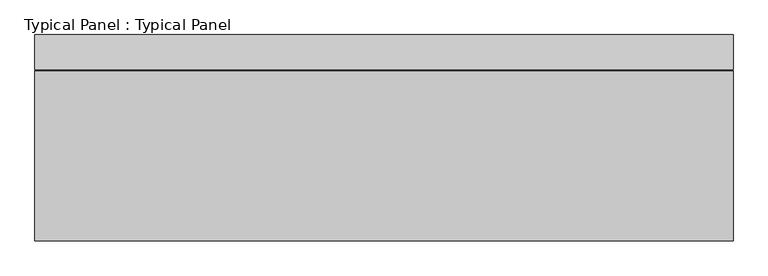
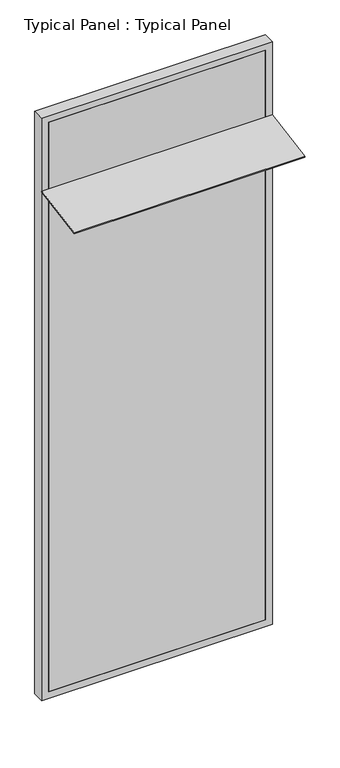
"""IFC4 building model written with IfcOpenShell, lengths in millimetres: plate geometry, Typical Panel : Typical Panel."""

from ifc_helpers import new_model, si_unit, frame, origin, place, context, project, spatial, polyline, outline, extrude, source, transform, mapped, element, save


def typical_panel_typical_panel_c39826dc(model_context):
    return source(origin(), model_context, "Body", "SweptSolid", [
        extrude(outline(polyline([(0.0, -370.0), (0.0, 0.0), (1500.0, 0.0), (1500.0, -370.0), (0.0, -370.0)])), frame((750.0, -367.6423868, 3425.9020967), z_axis=(0.0, -0.1736481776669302, 0.9848077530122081), x_axis=(-1.0, 0.0, 0.0)), (0.0, 0.0, 1.0), 10.0),
        extrude(outline(polyline([(0.0, -750.0), (0.0, 750.0), (4000.0, 750.0), (4000.0, -750.0), (0.0, -750.0)]), holes=[polyline([(45.0, 705.0), (45.0, -705.0), (3955.0, -705.0), (3955.0, 705.0), (45.0, 705.0)])]), frame((0.0, -1.5797986, 0.0), z_axis=(0.0, 1.0, 0.0), x_axis=(0.0, 0.0, 1.0)), (0.0, 0.0, 1.0), 75.0),
        extrude(outline(polyline([(705.0, -1.5797986), (-705.0, -1.5797986), (-705.0, 13.4202014), (705.0, 13.4202014), (705.0, -1.5797986)])), frame((0.0, 0.0, 45.0), z_axis=(0.0, 0.0, 1.0), x_axis=(1.0, 0.0, 0.0)), (0.0, 0.0, 1.0), 3910.0),
    ])


if __name__ == "__main__":
    model = new_model("IFC4")
    model_context = context("Model", 3, world=origin())
    ifc_project = project(units=[si_unit("LENGTHUNIT", "METRE", prefix="MILLI")], contexts=[model_context])
    site = spatial("IfcSite", under=ifc_project)
    building = spatial("IfcBuilding", under=site)
    placement = place(None, origin())
    typical_panel_typical_panel_shape = typical_panel_typical_panel_c39826dc(model_context)
    element("IfcPlate", 1, ObjectType="Typical Panel : Typical Panel", at=placement, inside=building, context=model_context, shape_type="MappedRepresentation", body=[
        mapped(typical_panel_typical_panel_shape, transform((0.0, 0.0, 0.0), x_axis=(1.0, 0.0, 0.0), y_axis=(0.0, 1.0, 0.0), z_axis=(0.0, 0.0, 1.0))),
    ])
    save(model, "model.ifc")
